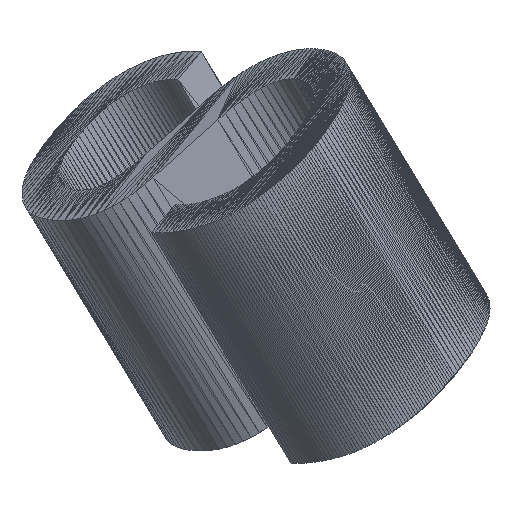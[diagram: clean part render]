
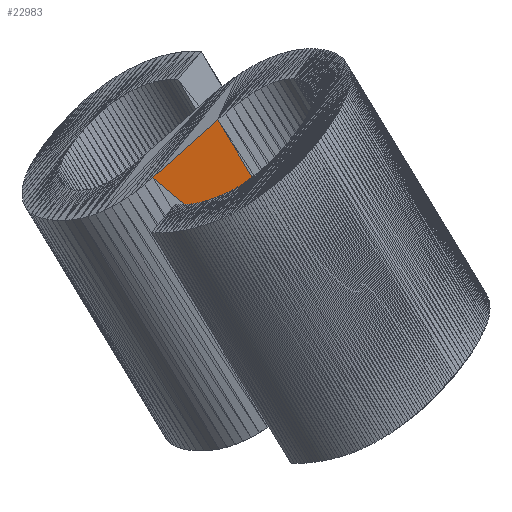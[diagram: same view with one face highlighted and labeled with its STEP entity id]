
A CAD part, isometric view. The second image highlights one B-rep face of the part: STEP entity #22983.
In plain terms, the highlighted planar face has unit normal (-0.176, -0.936, 0.304) as drawn and (0.176, 0.936, -0.304) by its records, which use the part's own axes.
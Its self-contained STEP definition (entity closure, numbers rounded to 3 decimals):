
#70=DIRECTION('',(0.549,-0.349,-0.759));
#331=DIRECTION('',(0.296,-0.345,-0.891));
#517=DIRECTION('',(0.939,-0.067,0.337));
#1946=VECTOR('',#70,1.);
#2207=VECTOR('',#331,1.);
#2393=VECTOR('',#517,1.);
#3937=CARTESIAN_POINT('',(-3.331,-3.495,0.658));
#3939=CARTESIAN_POINT('',(-3.227,-3.502,0.696));
#4515=CARTESIAN_POINT('',(-3.116,-3.632,0.361));
#4715=VERTEX_POINT('',#3937);
#4717=VERTEX_POINT('',#3939);
#5293=VERTEX_POINT('',#4515);
#6185=LINE('',#3937,#1946);
#6193=LINE('',#3937,#2393);
#6194=LINE('',#3939,#2207);
#8513=EDGE_CURVE('',#4715,#5293,#6185,.T.);
#8521=EDGE_CURVE('',#4715,#4717,#6193,.T.);
#8522=EDGE_CURVE('',#4717,#5293,#6194,.T.);
#10849=ORIENTED_EDGE('',*,*,#8521,.T.);
#10850=ORIENTED_EDGE('',*,*,#8522,.T.);
#13169=ORIENTED_EDGE('',*,*,#8513,.F.);
#15223=EDGE_LOOP('',(#10849,#10850,#13169));
#16775=FACE_OUTER_BOUND('',#15223,.T.);
#18884=DIRECTION('',(0.176,0.936,-0.304));
#18885=AXIS2_PLACEMENT_3D('',#3937,#18884,#517);
#21431=PLANE('',#18885);
#22983=ADVANCED_FACE('',(#16775),#21431,.T.);
